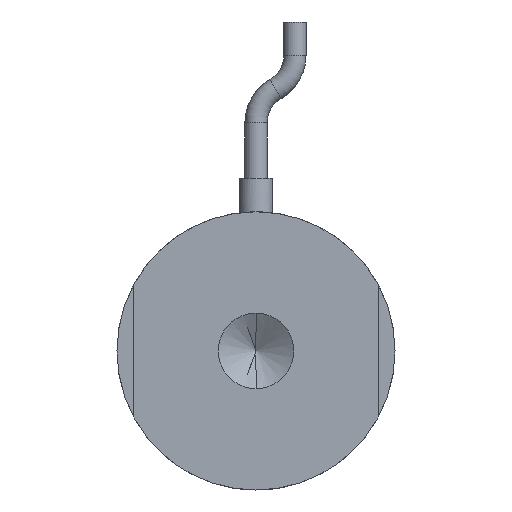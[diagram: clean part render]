
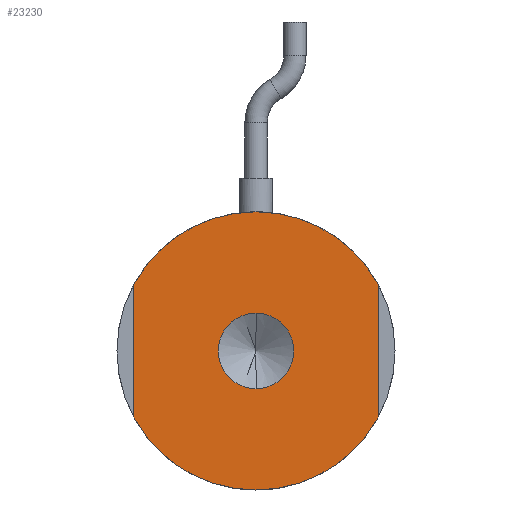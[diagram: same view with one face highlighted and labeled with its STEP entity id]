
A CAD part, front view. The second image highlights one B-rep face of the part: STEP entity #23230.
In plain terms, the highlighted planar face has unit normal (0, -1, 0).
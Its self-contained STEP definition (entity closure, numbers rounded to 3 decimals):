
#522 = AXIS2_PLACEMENT_3D ( 'NONE', #1221, #25172, #4618 ) ;
#989 = EDGE_CURVE ( 'NONE', #16752, #23052, #3978, .T. ) ;
#1127 = CARTESIAN_POINT ( 'NONE',  ( 0., 0., -12.5 ) ) ;
#1221 = CARTESIAN_POINT ( 'NONE',  ( 0., 0., 0. ) ) ;
#3978 = LINE ( 'NONE', #29830, #40506 ) ;
#4029 = EDGE_CURVE ( 'NONE', #4114, #42659, #21046, .T. ) ;
#4114 = VERTEX_POINT ( 'NONE', #39109 ) ;
#4618 = DIRECTION ( 'NONE',  ( 0., 0., -1. ) ) ;
#6462 = AXIS2_PLACEMENT_3D ( 'NONE', #40748, #20188, #44184 ) ;
#9296 = DIRECTION ( 'NONE',  ( 0., 0., -1. ) ) ;
#9619 = EDGE_CURVE ( 'NONE', #14128, #16752, #9708, .T. ) ;
#9708 = CIRCLE ( 'NONE', #6462, 12.5 ) ;
#9854 = DIRECTION ( 'NONE',  ( 0., 1., 0. ) ) ;
#11079 = CARTESIAN_POINT ( 'NONE',  ( 0., 0., 0. ) ) ;
#11117 = DIRECTION ( 'NONE',  ( 0., 1., 0. ) ) ;
#11657 = CIRCLE ( 'NONE', #26082, 12.5 ) ;
#11930 = VECTOR ( 'NONE', #27700, 1000. ) ;
#12298 = CIRCLE ( 'NONE', #43572, 12.5 ) ;
#13483 = EDGE_LOOP ( 'NONE', ( #30454, #31681, #42192, #19105, #19496, #25686 ) ) ;
#13498 = CARTESIAN_POINT ( 'NONE',  ( 0., 0., 0. ) ) ;
#14128 = VERTEX_POINT ( 'NONE', #22920 ) ;
#14352 = VERTEX_POINT ( 'NONE', #42111 ) ;
#14504 = DIRECTION ( 'NONE',  ( 0., 0., -1. ) ) ;
#15165 = EDGE_LOOP ( 'NONE', ( #24635, #22662 ) ) ;
#16752 = VERTEX_POINT ( 'NONE', #21270 ) ;
#16929 = DIRECTION ( 'NONE',  ( 0., 0., 1. ) ) ;
#17396 = DIRECTION ( 'NONE',  ( 0., 1., 0. ) ) ;
#19105 = ORIENTED_EDGE ( 'NONE', *, *, #989, .F. ) ;
#19496 = ORIENTED_EDGE ( 'NONE', *, *, #9619, .F. ) ;
#20188 = DIRECTION ( 'NONE',  ( 0., 1., 0. ) ) ;
#21046 = LINE ( 'NONE', #37615, #11930 ) ;
#21270 = CARTESIAN_POINT ( 'NONE',  ( 11., 0., 5.937 ) ) ;
#22662 = ORIENTED_EDGE ( 'NONE', *, *, #30905, .F. ) ;
#22667 = CARTESIAN_POINT ( 'NONE',  ( 11., 0., -5.937 ) ) ;
#22920 = CARTESIAN_POINT ( 'NONE',  ( 0., 0., 12.5 ) ) ;
#23052 = VERTEX_POINT ( 'NONE', #22667 ) ;
#23230 = ADVANCED_FACE ( 'NONE', ( #25389, #34499 ), #30593, .F. ) ;
#23343 = AXIS2_PLACEMENT_3D ( 'NONE', #13498, #37523, #16929 ) ;
#24635 = ORIENTED_EDGE ( 'NONE', *, *, #41656, .F. ) ;
#24823 = AXIS2_PLACEMENT_3D ( 'NONE', #30372, #9854, #33835 ) ;
#25172 = DIRECTION ( 'NONE',  ( 0., -1., 0. ) ) ;
#25389 = FACE_BOUND ( 'NONE', #15165, .T. ) ;
#25686 = ORIENTED_EDGE ( 'NONE', *, *, #28464, .F. ) ;
#26082 = AXIS2_PLACEMENT_3D ( 'NONE', #37983, #17396, #41439 ) ;
#26680 = CARTESIAN_POINT ( 'NONE',  ( -11., 0., 5.937 ) ) ;
#27493 = VERTEX_POINT ( 'NONE', #1127 ) ;
#27700 = DIRECTION ( 'NONE',  ( 0., 0., 1. ) ) ;
#28464 = EDGE_CURVE ( 'NONE', #42659, #14128, #33820, .T. ) ;
#29100 = VERTEX_POINT ( 'NONE', #32094 ) ;
#29830 = CARTESIAN_POINT ( 'NONE',  ( 11., 0., 0. ) ) ;
#30372 = CARTESIAN_POINT ( 'NONE',  ( 0., 0., 0. ) ) ;
#30413 = EDGE_CURVE ( 'NONE', #27493, #4114, #12298, .T. ) ;
#30454 = ORIENTED_EDGE ( 'NONE', *, *, #4029, .F. ) ;
#30593 = PLANE ( 'NONE',  #23343 ) ;
#30905 = EDGE_CURVE ( 'NONE', #14352, #29100, #32135, .T. ) ;
#31646 = CARTESIAN_POINT ( 'NONE',  ( 0., 0., 0. ) ) ;
#31681 = ORIENTED_EDGE ( 'NONE', *, *, #30413, .F. ) ;
#32094 = CARTESIAN_POINT ( 'NONE',  ( 0., 0., -3.4 ) ) ;
#32135 = CIRCLE ( 'NONE', #522, 3.4 ) ;
#33820 = CIRCLE ( 'NONE', #24823, 12.5 ) ;
#33835 = DIRECTION ( 'NONE',  ( 0., 0., 1. ) ) ;
#33892 = EDGE_CURVE ( 'NONE', #23052, #27493, #11657, .T. ) ;
#34499 = FACE_OUTER_BOUND ( 'NONE', #13483, .T. ) ;
#35067 = DIRECTION ( 'NONE',  ( 0., -1., 0. ) ) ;
#35120 = DIRECTION ( 'NONE',  ( 0., 0., 1. ) ) ;
#37523 = DIRECTION ( 'NONE',  ( 0., 1., 0. ) ) ;
#37615 = CARTESIAN_POINT ( 'NONE',  ( -11., 0., 0. ) ) ;
#37983 = CARTESIAN_POINT ( 'NONE',  ( 0., 0., 0. ) ) ;
#38955 = AXIS2_PLACEMENT_3D ( 'NONE', #11079, #35067, #14504 ) ;
#39109 = CARTESIAN_POINT ( 'NONE',  ( -11., 0., -5.937 ) ) ;
#40506 = VECTOR ( 'NONE', #9296, 1000. ) ;
#40748 = CARTESIAN_POINT ( 'NONE',  ( 0., 0., 0. ) ) ;
#41439 = DIRECTION ( 'NONE',  ( 0., 0., 1. ) ) ;
#41656 = EDGE_CURVE ( 'NONE', #29100, #14352, #44109, .T. ) ;
#42111 = CARTESIAN_POINT ( 'NONE',  ( 0., 0., 3.4 ) ) ;
#42192 = ORIENTED_EDGE ( 'NONE', *, *, #33892, .F. ) ;
#42659 = VERTEX_POINT ( 'NONE', #26680 ) ;
#43572 = AXIS2_PLACEMENT_3D ( 'NONE', #31646, #11117, #35120 ) ;
#44109 = CIRCLE ( 'NONE', #38955, 3.4 ) ;
#44184 = DIRECTION ( 'NONE',  ( 0., 0., 1. ) ) ;
